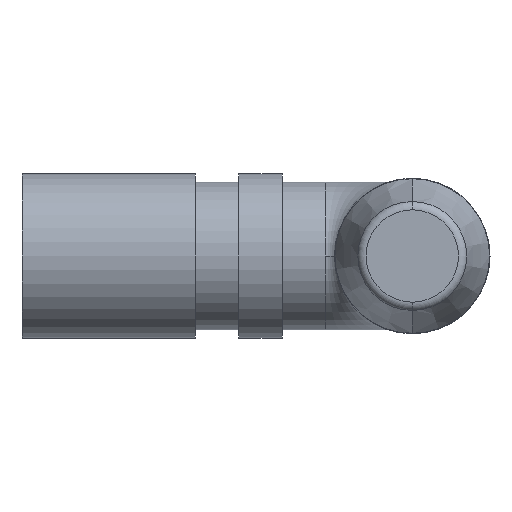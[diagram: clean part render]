
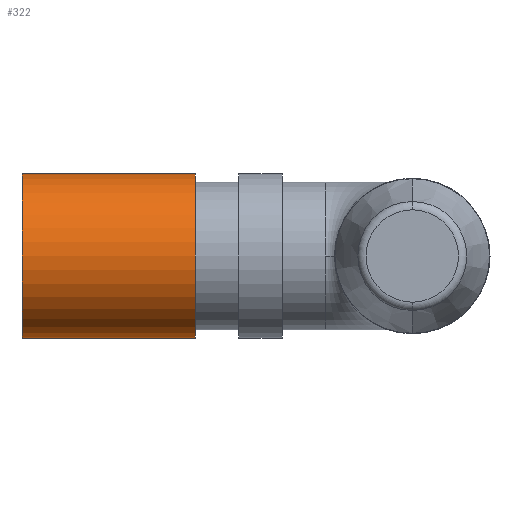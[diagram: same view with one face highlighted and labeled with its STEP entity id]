
A CAD part, front view. The second image highlights one B-rep face of the part: STEP entity #322.
In plain terms, the highlighted cylindrical face has radius 9.5 mm (diameter 19 mm), a partial arc.
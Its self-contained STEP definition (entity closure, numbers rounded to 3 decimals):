
#5 = ORIENTED_EDGE ( 'NONE', *, *, #57, .T. ) ;
#13 = DIRECTION ( 'NONE',  ( 0., 0., 1. ) ) ;
#53 = VECTOR ( 'NONE', #158, 1000. ) ;
#57 = EDGE_CURVE ( 'NONE', #448, #726, #245, .T. ) ;
#69 = EDGE_LOOP ( 'NONE', ( #218, #5, #651, #118 ) ) ;
#101 = CARTESIAN_POINT ( 'NONE',  ( 0., 0., -9.5 ) ) ;
#118 = ORIENTED_EDGE ( 'NONE', *, *, #725, .F. ) ;
#158 = DIRECTION ( 'NONE',  ( -1., 0., 0. ) ) ;
#161 = DIRECTION ( 'NONE',  ( -1., 0., 0. ) ) ;
#217 = CARTESIAN_POINT ( 'NONE',  ( 20., 0., -9.5 ) ) ;
#218 = ORIENTED_EDGE ( 'NONE', *, *, #494, .F. ) ;
#245 = CIRCLE ( 'NONE', #766, 9.5 ) ;
#249 = CARTESIAN_POINT ( 'NONE',  ( 0., 0., -9.5 ) ) ;
#285 = DIRECTION ( 'NONE',  ( -1., 0., 0. ) ) ;
#322 = ADVANCED_FACE ( 'NONE', ( #652 ), #488, .T. ) ;
#323 = DIRECTION ( 'NONE',  ( 0., 0., 1. ) ) ;
#371 = CIRCLE ( 'NONE', #727, 9.5 ) ;
#386 = LINE ( 'NONE', #646, #53 ) ;
#393 = DIRECTION ( 'NONE',  ( -1., 0., 0. ) ) ;
#440 = DIRECTION ( 'NONE',  ( -1., 0., 0. ) ) ;
#442 = VECTOR ( 'NONE', #285, 1000. ) ;
#448 = VERTEX_POINT ( 'NONE', #217 ) ;
#488 = CYLINDRICAL_SURFACE ( 'NONE', #667, 9.5 ) ;
#494 = EDGE_CURVE ( 'NONE', #448, #598, #760, .T. ) ;
#529 = DIRECTION ( 'NONE',  ( 0., 0., 1. ) ) ;
#556 = CARTESIAN_POINT ( 'NONE',  ( 0., 0., 0. ) ) ;
#581 = CARTESIAN_POINT ( 'NONE',  ( 20., 0., 0. ) ) ;
#598 = VERTEX_POINT ( 'NONE', #101 ) ;
#603 = EDGE_CURVE ( 'NONE', #726, #662, #386, .T. ) ;
#646 = CARTESIAN_POINT ( 'NONE',  ( 0., 0., 9.5 ) ) ;
#651 = ORIENTED_EDGE ( 'NONE', *, *, #603, .T. ) ;
#652 = FACE_OUTER_BOUND ( 'NONE', #69, .T. ) ;
#662 = VERTEX_POINT ( 'NONE', #746 ) ;
#667 = AXIS2_PLACEMENT_3D ( 'NONE', #556, #440, #13 ) ;
#725 = EDGE_CURVE ( 'NONE', #598, #662, #371, .T. ) ;
#726 = VERTEX_POINT ( 'NONE', #736 ) ;
#727 = AXIS2_PLACEMENT_3D ( 'NONE', #741, #393, #323 ) ;
#736 = CARTESIAN_POINT ( 'NONE',  ( 20., 0., 9.5 ) ) ;
#741 = CARTESIAN_POINT ( 'NONE',  ( 0., 0., 0. ) ) ;
#746 = CARTESIAN_POINT ( 'NONE',  ( 0., 0., 9.5 ) ) ;
#760 = LINE ( 'NONE', #249, #442 ) ;
#766 = AXIS2_PLACEMENT_3D ( 'NONE', #581, #161, #529 ) ;
